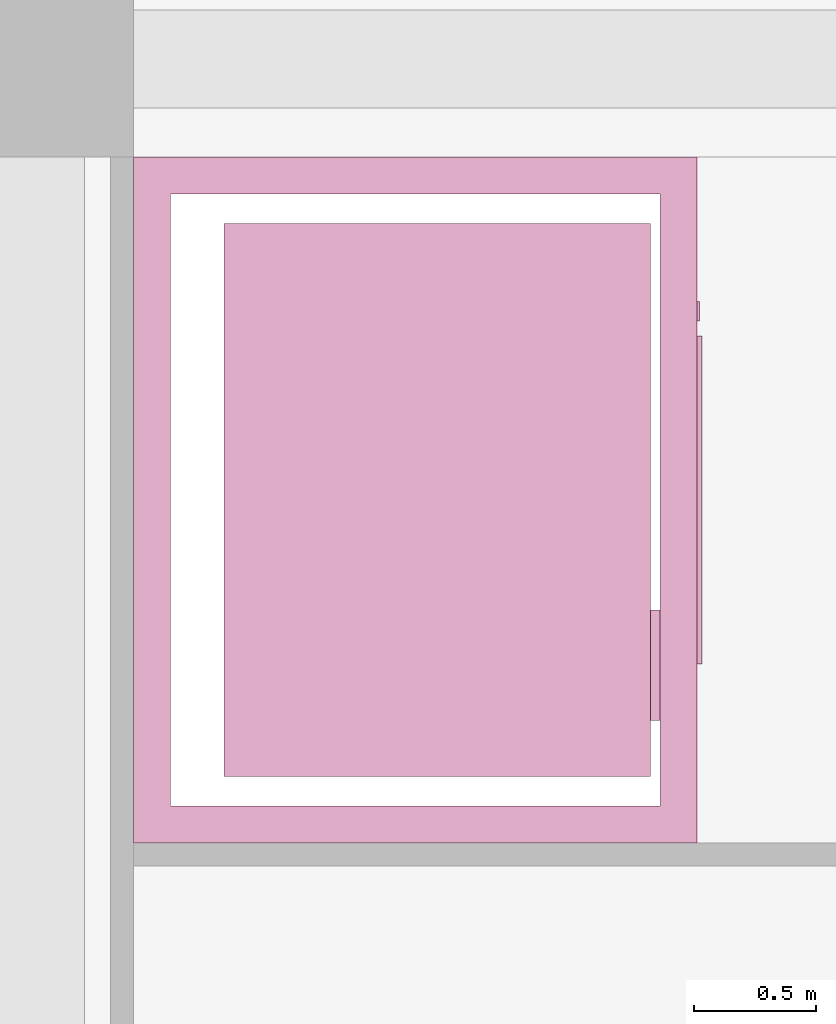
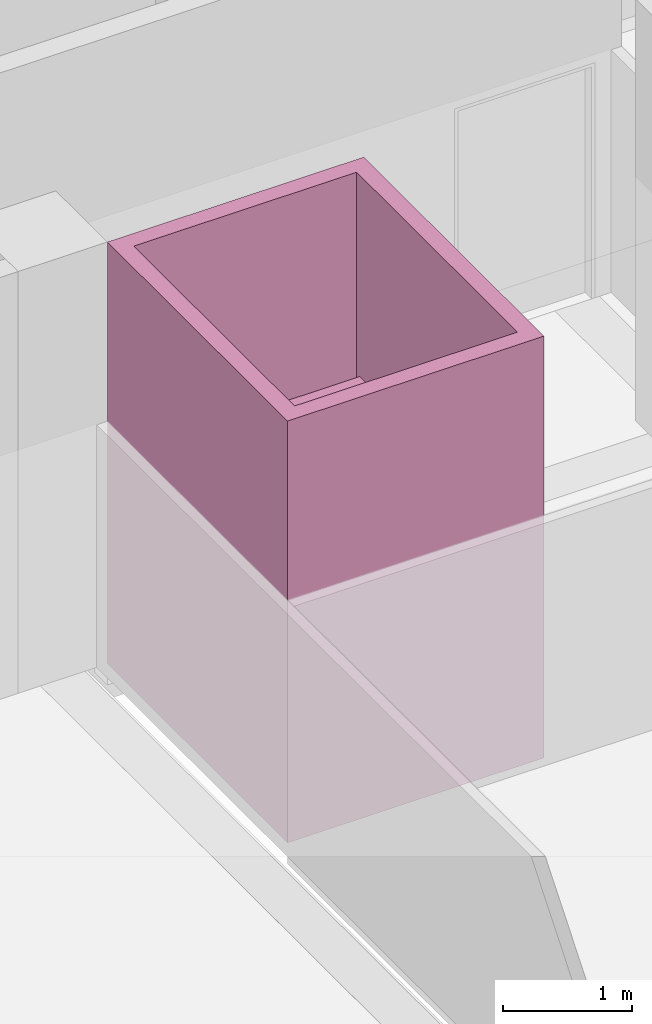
# One storey, part 9 of 14: 1 transport element.
"""IFC2X3 building model written with IfcOpenShell, lengths in millimetres."""

from ifc_helpers import new_model, entity, si_unit, converted_unit, direction, frame, origin_with_axes, place, context, project, spatial, faceted_brep, material, element, save


model = new_model("IFC2X3")

# Units and contexts
model_context = context("Model", 3, precision=1e-05, world=origin_with_axes(), true_north=direction((0.0, 1.0)))
ifc_project = project(units=[si_unit("LENGTHUNIT", "METRE", prefix="MILLI"), si_unit("AREAUNIT", "SQUARE_METRE"), si_unit("VOLUMEUNIT", "CUBIC_METRE"), converted_unit("PLANEANGLEUNIT", "DEGREE", entity("IfcPlaneAngleMeasure", 0.017453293), si_unit("PLANEANGLEUNIT", "RADIAN"), dimensions=[0, 0, 0, 0, 0, 0, 0]), si_unit("SOLIDANGLEUNIT", "STERADIAN"), si_unit("MASSUNIT", "GRAM"), si_unit("TIMEUNIT", "SECOND"), si_unit("THERMODYNAMICTEMPERATUREUNIT", "DEGREE_CELSIUS"), si_unit("LUMINOUSINTENSITYUNIT", "LUMEN")], contexts=[model_context])

# Site, building, storey
site_placement = place(None, origin_with_axes())
site = spatial("IfcSite", under=ifc_project, at=site_placement, Name="\x83T\x83C\x83g", CompositionType="ELEMENT")
building_placement = place(site_placement, origin_with_axes())
building = spatial("IfcBuilding", under=site, at=building_placement, Name="Daitec-Sample 201208", CompositionType="ELEMENT")
storey_placement = place(building_placement, frame((0.0, 0.0, 4000.0), z_axis=(0.0, 0.0, 1.0), x_axis=(1.0, 0.0, 0.0)))
storey = spatial("IfcBuildingStorey", under=building, at=storey_placement, Name="2F", CompositionType="ELEMENT", Elevation=4000.0)

# Transport element
ifc_material = material(Name="\x94w\x8ci")
transport_element_placement = place(storey_placement, frame((27200.0, 15200.0, 0.0), z_axis=(0.0, 0.0, 1.0), x_axis=(0.0, 1.0, 0.0)))
element("IfcTransportElement", 1, at=transport_element_placement, inside=storey, material=ifc_material, Name="O1", OperationType="NOTDEFINED", context=model_context, shape_type="Brep", body=[
    faceted_brep([(950.0, 210.0, 0.0), (500.0, 210.0, 0.0), (500.0, 210.0, 2000.0), (950.0, 210.0, 2000.0), (950.0, 190.0, 0.0), (500.0, 190.0, 0.0), (500.0, 190.0, 2000.0), (950.0, 190.0, 2000.0)], [[[0, 1, 2, 3]], [[1, 0, 4, 5]], [[2, 1, 5, 6]], [[3, 2, 6, 7]], [[0, 3, 7, 4]], [[5, 4, 7, 6]]]),
    faceted_brep([(950.0, 230.0, 0.0), (500.0, 230.0, 0.0), (500.0, 230.0, 2000.0), (950.0, 230.0, 2000.0), (950.0, 210.0, 0.0), (500.0, 210.0, 0.0), (500.0, 210.0, 2000.0), (950.0, 210.0, 2000.0)], [[[0, 1, 2, 3]], [[1, 0, 4, 5]], [[2, 1, 5, 6]], [[3, 2, 6, 7]], [[0, 3, 7, 4]], [[5, 4, 7, 6]]]),
    faceted_brep([(350.0, 270.0, 0.0), (950.0, 270.0, 0.0), (950.0, 230.0, 0.0), (500.0, 230.0, 0.0), (500.0, 190.0, 0.0), (270.0, 190.0, 0.0), (270.0, 1930.0, 0.0), (2530.0, 1930.0, 0.0), (2530.0, 190.0, 0.0), (1850.0, 190.0, 0.0), (1850.0, 270.0, 0.0), (2450.0, 270.0, 0.0), (2450.0, 1850.0, 0.0), (350.0, 1850.0, 0.0), (350.0, 270.0, 2100.0), (2450.0, 270.0, 2100.0), (1850.0, 270.0, 2000.0), (950.0, 270.0, 2000.0), (950.0, 230.0, 2000.0), (500.0, 230.0, 2000.0), (500.0, 190.0, 2000.0), (1850.0, 190.0, 2000.0), (2530.0, 190.0, 2100.0), (270.0, 190.0, 2100.0), (270.0, 1930.0, 2100.0), (2530.0, 1930.0, 2100.0), (2450.0, 1850.0, 2100.0), (350.0, 1850.0, 2100.0)], [[[0, 1, 2, 3, 4, 5, 6, 7, 8, 9, 10, 11, 12, 13]], [[14, 15, 11, 10, 16, 17, 1, 0]], [[1, 17, 18, 2]], [[3, 2, 18, 19]], [[3, 19, 20, 4]], [[20, 21, 9, 8, 22, 23, 5, 4]], [[5, 23, 24, 6]], [[6, 24, 25, 7]], [[7, 25, 22, 8]], [[16, 10, 9, 21]], [[15, 26, 12, 11]], [[26, 27, 13, 12]], [[27, 14, 0, 13]], [[22, 25, 24, 23], [27, 26, 15, 14]], [[17, 16, 21, 20, 19, 18]]]),
    faceted_brep([(270.0, 190.0, -50.0), (2530.0, 190.0, -50.0), (2530.0, 190.0, 0.0), (270.0, 190.0, 0.0), (270.0, 1930.0, -50.0), (2530.0, 1930.0, -50.0), (2530.0, 1930.0, 0.0), (270.0, 1930.0, 0.0)], [[[0, 1, 2, 3]], [[0, 4, 5, 1]], [[1, 5, 6, 2]], [[3, 2, 6, 7]], [[4, 0, 3, 7]], [[5, 4, 7, 6]]]),
    faceted_brep([(270.0, 190.0, 2100.0), (2530.0, 190.0, 2100.0), (2530.0, 190.0, 2150.0), (270.0, 190.0, 2150.0), (270.0, 1930.0, 2100.0), (2530.0, 1930.0, 2100.0), (2530.0, 1930.0, 2150.0), (270.0, 1930.0, 2150.0)], [[[0, 1, 2, 3]], [[0, 4, 5, 1]], [[1, 5, 6, 2]], [[3, 2, 6, 7]], [[4, 0, 3, 7]], [[5, 4, 7, 6]]]),
    faceted_brep([(2450.0, 370.0, 1000.0), (2450.0, 470.0, 1000.0), (2450.0, 470.0, 1075.0), (2450.0, 370.0, 1075.0), (2440.0, 370.0, 1000.0), (2440.0, 470.0, 1000.0), (2440.0, 470.0, 1075.0), (2440.0, 370.0, 1075.0)], [[[0, 1, 2, 3]], [[1, 0, 4, 5]], [[2, 1, 5, 6]], [[3, 2, 6, 7]], [[0, 3, 7, 4]], [[5, 4, 7, 6]]]),
    faceted_brep([(2440.0, 450.42893, 1005.4289), (2440.0, 450.42893, 1019.5711), (2435.0, 451.84315, 1018.1569), (2435.0, 451.84315, 1006.8431), (2440.0, 464.57107, 1005.4289), (2440.0, 464.57107, 1019.5711), (2435.0, 463.15685, 1018.1569), (2435.0, 463.15685, 1006.8431)], [[[0, 1, 2, 3]], [[0, 4, 5, 1]], [[1, 5, 6, 2]], [[3, 2, 6, 7]], [[4, 0, 3, 7]], [[5, 4, 7, 6]]]),
    faceted_brep([(2440.0, 425.42893, 1005.4289), (2440.0, 425.42893, 1019.5711), (2435.0, 426.84315, 1018.1569), (2435.0, 426.84315, 1006.8431), (2440.0, 439.57107, 1005.4289), (2440.0, 439.57107, 1019.5711), (2435.0, 438.15685, 1018.1569), (2435.0, 438.15685, 1006.8431)], [[[0, 1, 2, 3]], [[0, 4, 5, 1]], [[1, 5, 6, 2]], [[3, 2, 6, 7]], [[4, 0, 3, 7]], [[5, 4, 7, 6]]]),
    faceted_brep([(2440.0, 400.42893, 1005.4289), (2440.0, 400.42893, 1019.5711), (2435.0, 401.84315, 1018.1569), (2435.0, 401.84315, 1006.8431), (2440.0, 414.57107, 1005.4289), (2440.0, 414.57107, 1019.5711), (2435.0, 413.15685, 1018.1569), (2435.0, 413.15685, 1006.8431)], [[[0, 1, 2, 3]], [[0, 4, 5, 1]], [[1, 5, 6, 2]], [[3, 2, 6, 7]], [[4, 0, 3, 7]], [[5, 4, 7, 6]]]),
    faceted_brep([(2440.0, 375.42893, 1005.4289), (2440.0, 375.42893, 1019.5711), (2435.0, 376.84315, 1018.1569), (2435.0, 376.84315, 1006.8431), (2440.0, 389.57107, 1005.4289), (2440.0, 389.57107, 1019.5711), (2435.0, 388.15685, 1018.1569), (2435.0, 388.15685, 1006.8431)], [[[0, 1, 2, 3]], [[0, 4, 5, 1]], [[1, 5, 6, 2]], [[3, 2, 6, 7]], [[4, 0, 3, 7]], [[5, 4, 7, 6]]]),
    faceted_brep([(2440.0, 450.42893, 1055.4289), (2440.0, 450.42893, 1069.5711), (2435.0, 451.84315, 1068.1569), (2435.0, 451.84315, 1056.8431), (2440.0, 464.57107, 1055.4289), (2440.0, 464.57107, 1069.5711), (2435.0, 463.15685, 1068.1569), (2435.0, 463.15685, 1056.8431)], [[[0, 1, 2, 3]], [[0, 4, 5, 1]], [[1, 5, 6, 2]], [[3, 2, 6, 7]], [[4, 0, 3, 7]], [[5, 4, 7, 6]]]),
    faceted_brep([(770.0, 150.0, 0.0), (950.0, 150.0, 0.0), (950.0, 90.0, 0.0), (770.0, 90.0, 0.0), (770.0, 150.0, 2180.0), (2030.0, 150.0, 2180.0), (2030.0, 150.0, 0.0), (1850.0, 150.0, 0.0), (1850.0, 150.0, 2000.0), (950.0, 150.0, 2000.0), (950.0, 90.0, 2000.0), (1850.0, 90.0, 2000.0), (1850.0, 90.0, 0.0), (2030.0, 90.0, 0.0), (2030.0, 90.0, 2180.0), (770.0, 90.0, 2180.0)], [[[0, 1, 2, 3]], [[0, 4, 5, 6, 7, 8, 9, 1]], [[1, 9, 10, 2]], [[3, 2, 10, 11, 12, 13, 14, 15]], [[4, 0, 3, 15]], [[5, 4, 15, 14]], [[6, 5, 14, 13]], [[7, 6, 13, 12]], [[8, 7, 12, 11]], [[9, 8, 11, 10]]]),
    faceted_brep([(770.0, 90.0, 0.0), (790.0, 90.0, 0.0), (790.0, 0.0, 0.0), (770.0, 0.0, 0.0), (770.0, 90.0, 2180.0), (2030.0, 90.0, 2180.0), (2030.0, 90.0, 0.0), (2010.0, 90.0, 0.0), (2010.0, 90.0, 2160.0), (790.0, 90.0, 2160.0), (790.0, 0.0, 2160.0), (2010.0, 0.0, 2160.0), (2010.0, 0.0, 0.0), (2030.0, 0.0, 0.0), (2030.0, 0.0, 2180.0), (770.0, 0.0, 2180.0)], [[[0, 1, 2, 3]], [[0, 4, 5, 6, 7, 8, 9, 1]], [[1, 9, 10, 2]], [[3, 2, 10, 11, 12, 13, 14, 15]], [[4, 0, 3, 15]], [[5, 4, 15, 14]], [[6, 5, 14, 13]], [[7, 6, 13, 12]], [[8, 7, 12, 11]], [[9, 8, 11, 10]]]),
    faceted_brep([(730.0, 0.0, 0.0), (790.0, 0.0, 0.0), (790.0, -20.0, 0.0), (730.0, -20.0, 0.0), (730.0, 0.0, 2220.0), (2070.0, 0.0, 2220.0), (2070.0, 0.0, 0.0), (2010.0, 0.0, 0.0), (2010.0, 0.0, 2160.0), (790.0, 0.0, 2160.0), (790.0, -20.0, 2160.0), (2010.0, -20.0, 2160.0), (2010.0, -20.0, 0.0), (2070.0, -20.0, 0.0), (2070.0, -20.0, 2220.0), (730.0, -20.0, 2220.0)], [[[0, 1, 2, 3]], [[0, 4, 5, 6, 7, 8, 9, 1]], [[1, 9, 10, 2]], [[3, 2, 10, 11, 12, 13, 14, 15]], [[4, 0, 3, 15]], [[5, 4, 15, 14]], [[6, 5, 14, 13]], [[7, 6, 13, 12]], [[8, 7, 12, 11]], [[9, 8, 11, 10]]]),
    faceted_brep([(950.0, 170.0, 0.0), (500.0, 170.0, 0.0), (500.0, 170.0, 2000.0), (950.0, 170.0, 2000.0), (950.0, 150.0, 0.0), (500.0, 150.0, 0.0), (500.0, 150.0, 2000.0), (950.0, 150.0, 2000.0)], [[[0, 1, 2, 3]], [[1, 0, 4, 5]], [[2, 1, 5, 6]], [[3, 2, 6, 7]], [[0, 3, 7, 4]], [[5, 4, 7, 6]]]),
    faceted_brep([(950.0, 190.0, 0.0), (500.0, 190.0, 0.0), (500.0, 190.0, 2000.0), (950.0, 190.0, 2000.0), (950.0, 170.0, 0.0), (500.0, 170.0, 0.0), (500.0, 170.0, 2000.0), (950.0, 170.0, 2000.0)], [[[0, 1, 2, 3]], [[1, 0, 4, 5]], [[2, 1, 5, 6]], [[3, 2, 6, 7]], [[0, 3, 7, 4]], [[5, 4, 7, 6]]]),
    faceted_brep([(2210.0, 0.0, 1000.0), (2130.0, 0.0, 1000.0), (2130.0, 0.0, 1100.0), (2210.0, 0.0, 1100.0), (2210.0, -10.0, 1000.0), (2130.0, -10.0, 1000.0), (2130.0, -10.0, 1100.0), (2210.0, -10.0, 1100.0)], [[[0, 1, 2, 3]], [[1, 0, 4, 5]], [[2, 1, 5, 6]], [[3, 2, 6, 7]], [[0, 3, 7, 4]], [[5, 4, 7, 6]]]),
    faceted_brep([(150.0, 150.0, 0.0), (770.0, 150.0, 0.0), (770.0, 0.0, 0.0), (0.0, 0.0, 0.0), (0.0, 2300.0, 0.0), (2800.0, 2300.0, 0.0), (2800.0, 0.0, 0.0), (2030.0, 0.0, 0.0), (2030.0, 150.0, 0.0), (2650.0, 150.0, 0.0), (2650.0, 2150.0, 0.0), (150.0, 2150.0, 0.0), (150.0, 150.0, 4000.0), (2650.0, 150.0, 4000.0), (2030.0, 150.0, 2180.0), (770.0, 150.0, 2180.0), (770.0, 0.0, 2180.0), (2030.0, 0.0, 2180.0), (2800.0, 0.0, 4000.0), (0.0, 0.0, 4000.0), (0.0, 2300.0, 4000.0), (2800.0, 2300.0, 4000.0), (2650.0, 2150.0, 4000.0), (150.0, 2150.0, 4000.0)], [[[0, 1, 2, 3, 4, 5, 6, 7, 8, 9, 10, 11]], [[12, 13, 9, 8, 14, 15, 1, 0]], [[1, 15, 16, 2]], [[3, 2, 16, 17, 7, 6, 18, 19]], [[19, 20, 4, 3]], [[20, 21, 5, 4]], [[21, 18, 6, 5]], [[14, 8, 7, 17]], [[13, 22, 10, 9]], [[22, 23, 11, 10]], [[23, 12, 0, 11]], [[21, 20, 19, 18], [23, 22, 13, 12]], [[15, 14, 17, 16]]]),
])

save(model, "model.ifc")
